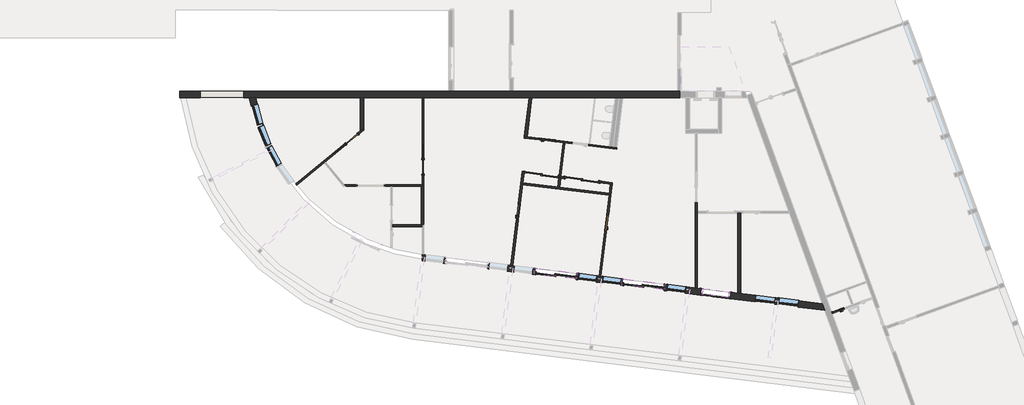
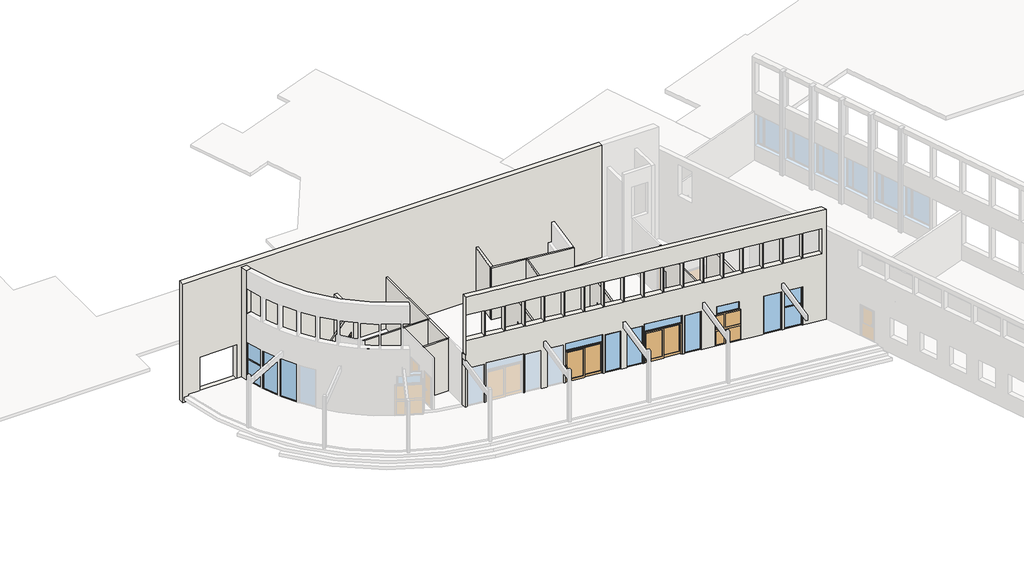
# One storey, part 2 of 13: 19 walls, 11 doors, 11 windows.
"""IFC4 building model written with IfcOpenShell, lengths in millimetres."""

from ifc_helpers import new_model, si_unit, frame, origin, place, context, project, spatial, polyline, circle_curve, outline, extrude, faceted_brep, transform, mapped, element, save
from ifc_brep_helpers import plane_surface, cylinder_surface, advanced_brep
from components import door_adb3bcbd, door_b8f6f8d4, door_7x21_1ed85bad, door_9x21_ce0798c1, door_9x21_316ed650, door_9x21_88a7b2ae, id_16x22m_5dfcd5f5, window_942cbd03, window_3f70d9f7, window_7219a36e, window_894d641d, window_12c30cfa, window_c16d9a60

model = new_model("IFC4")

# Units and contexts
model_context = context("Model", 3, world=origin())
ifc_project = project(units=[si_unit("LENGTHUNIT", "METRE", prefix="MILLI")], contexts=[model_context])

# Site, building, storey
site = spatial("IfcSite", under=ifc_project)
building = spatial("IfcBuilding", under=site)
storey = spatial("IfcBuildingStorey", under=building, Name="1.0 første etg hovedbygg", Elevation=2500.0)

# Doors
placement = place(None, origin())
door_shape = door_adb3bcbd(model_context)
element("IfcDoor", 1, ObjectType="Balkongdor ST : 23x21 ST V1", at=placement, inside=storey, context=model_context, shape_type="MappedRepresentation", body=[
    mapped(door_shape, transform((21189.1514529, -10546.0797473, 2500.0), x_axis=(-0.9925461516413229, 0.12186934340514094, 0.0), y_axis=(-0.12186934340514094, -0.9925461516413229, 0.0), z_axis=(0.0, 0.0, 1.0))),
])
element("IfcDoor", 2, ObjectType="Balkongdor ST : 23x21 ST V1", at=placement, inside=storey, context=model_context, shape_type="MappedRepresentation", body=[
    mapped(door_shape, transform((16464.6317694, -9965.9816725, 2500.0), x_axis=(-0.9925461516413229, 0.12186934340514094, 0.0), y_axis=(-0.12186934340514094, -0.9925461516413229, 0.0), z_axis=(0.0, 0.0, 1.0))),
])
door_2_shape = door_b8f6f8d4(model_context)
element("IfcDoor", 3, ObjectType="skyvedørsgarderobe : 72\" x 84\"", at=placement, inside=storey, context=model_context, shape_type="MappedRepresentation", body=[
    mapped(door_2_shape, transform((15726.1113674, -4493.034989, 2500.0), x_axis=(-0.9925461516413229, 0.12186934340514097, 0.0), y_axis=(-0.12186934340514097, -0.9925461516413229, 0.0), z_axis=(0.0, 0.0, 1.0))),
])
element("IfcDoor", 4, ObjectType="skyvedørsgarderobe : 72\" x 84\"", at=placement, inside=storey, context=model_context, shape_type="MappedRepresentation", body=[
    mapped(door_2_shape, transform((17878.7580912, -5013.2542674, 2500.0), x_axis=(0.9925461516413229, -0.12186934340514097, 0.0), y_axis=(0.12186934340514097, 0.9925461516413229, 0.0), z_axis=(0.0, 0.0, 1.0))),
])
door_7x21_shape = door_7x21_1ed85bad(model_context)
element("IfcDoor", 5, ObjectType="Innerdør Slett (Diplomat) : 7x21", at=placement, inside=storey, context=model_context, shape_type="MappedRepresentation", body=[
    mapped(door_7x21_shape, transform((31645.4917854, -11957.9047958, 2500.0), x_axis=(0.9396926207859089, 0.34202014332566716, 0.0), y_axis=(-0.34202014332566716, 0.9396926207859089, 0.0), z_axis=(0.0, 0.0, 1.0))),
])
door_9x21_shape = door_9x21_ce0798c1(model_context)
element("IfcDoor", 6, ObjectType="Innerdør Slett (Diplomat) : 9x21", at=placement, inside=storey, context=model_context, shape_type="MappedRepresentation", body=[
    mapped(door_9x21_shape, transform((14463.7927551, -6568.286022, 2500.0), x_axis=(-0.12186934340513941, -0.9925461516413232, 0.0), y_axis=(0.9925461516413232, -0.12186934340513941, 0.0), z_axis=(0.0, 0.0, 1.0))),
])
door_9x21_2_shape = door_9x21_316ed650(model_context)
element("IfcDoor", 7, ObjectType="Innerdør Slett (Diplomat) : 9x21", at=placement, inside=storey, context=model_context, shape_type="MappedRepresentation", body=[
    mapped(door_9x21_2_shape, transform((16094.4220812, -2751.9429377, 2500.0), x_axis=(-0.9925461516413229, 0.1218693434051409, 0.0), y_axis=(-0.1218693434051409, -0.9925461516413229, 0.0), z_axis=(0.0, 0.0, 1.0))),
])
element("IfcDoor", 8, ObjectType="Innerdør Slett (Diplomat) : 9x21", at=placement, inside=storey, context=model_context, shape_type="MappedRepresentation", body=[
    mapped(door_9x21_2_shape, transform((19225.5768995, -7173.1097938, 2500.0), x_axis=(-0.12186934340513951, -0.9925461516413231, 0.0), y_axis=(0.9925461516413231, -0.12186934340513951, 0.0), z_axis=(0.0, 0.0, 1.0))),
])
door_9x21_3_shape = door_9x21_88a7b2ae(model_context)
element("IfcDoor", 9, ObjectType="Innerdor Skyvedor Glatt : 9x21", at=placement, inside=storey, context=model_context, shape_type="MappedRepresentation", body=[
    mapped(door_9x21_3_shape, transform((5499.1047617, -2691.4244287, 2500.0), x_axis=(0.77574393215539, 0.6310478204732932, 0.0), y_axis=(-0.6310478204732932, 0.77574393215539, 0.0), z_axis=(0.0, 0.0, 1.0))),
])
element("IfcDoor", 10, ObjectType="Innerdor Skyvedor Glatt : 9x21", at=placement, inside=storey, context=model_context, shape_type="MappedRepresentation", body=[
    mapped(door_9x21_3_shape, transform((9333.9847548, -4197.7698419, 2500.0), x_axis=(0.0, -1.0, 0.0), y_axis=(1.0, 0.0, 0.0), z_axis=(0.0, 0.0, 1.0))),
])
id_16x22m_shape = id_16x22m_5dfcd5f5(model_context)
element("IfcDoor", 11, ObjectType="Y-dør tofløya med glas : ID 16x22M", at=placement, inside=storey, context=model_context, shape_type="MappedRepresentation", body=[
    mapped(id_16x22m_shape, transform((24397.060615, -10939.9614652, 2500.0), x_axis=(-0.9925461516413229, 0.12186934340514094, 0.0), y_axis=(-0.12186934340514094, -0.9925461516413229, 0.0), z_axis=(0.0, 0.0, 1.0))),
])

# Walls
element("IfcWall", 12, ObjectType="Yttervegg Tre 198+48 Isolert Stående kledning 2", at=placement, inside=storey, context=model_context, shape_type="Brep", body=[
    faceted_brep([(331.2226777, -480.0, 9960.0), (410.461041, -855.1499797, 9960.0), (410.461041, -855.1499797, 8720.0), (401.9582895, -814.8941375, 8720.0), (401.9582895, -814.8941375, 7010.0), (410.461041, -855.1499797, 7010.0), (410.461041, -855.1499797, 5100.0), (402.1505635, -815.8044485, 5100.0), (402.1505635, -815.8044485, 2500.0), (331.2226777, -480.0, 2500.0), (-20.367027, -480.0, 2500.0), (74.446719, -928.8908326, 2500.0), (74.446719, -928.8908326, 9960.0), (-20.367027, -480.0, 9960.0), (399.2774413, -805.51238, 2500.0), (68.4117649, -897.8764671, 2500.0), (76.9182834, -928.3484294, 2500.0), (76.9182834, -928.3484294, 5100.0), (76.9742172, -928.3361543, 7010.0), (76.9742172, -928.3361543, 8720.0), (68.4117649, -897.8764671, 5100.0), (399.2774413, -805.51238, 5100.0), (399.028633, -804.3951185, 8720.0), (399.028633, -804.3951185, 7010.0), (68.1528569, -896.7230188, 8720.0), (68.1528569, -896.7230188, 7010.0)], [[[0, 1, 2, 3, 4, 5, 6, 7, 8, 9]], [[10, 11, 12, 13]], [[11, 10, 9, 8, 14, 15, 16]], [[1, 0, 13, 12]], [[0, 9, 10, 13]], [[1, 12, 11, 16, 17, 6, 5, 18, 19, 2]], [[20, 17, 16, 15]], [[7, 21, 14, 8]], [[20, 21, 7, 6, 17]], [[21, 20, 15, 14]], [[22, 23, 4, 3]], [[24, 22, 3, 2, 19]], [[24, 25, 23, 22]], [[23, 25, 18, 5, 4]], [[25, 24, 19, 18]]]),
])
element("IfcWall", 13, ObjectType="Yttervegg Tre 198+48 Isolert Stående kledning 2", at=placement, inside=storey, context=model_context, shape_type="Brep", body=[
    faceted_brep([(9354.9462819, -8919.7303718, 9960.0), (30838.2598309, -11557.5495926, 9960.0), (30838.2598309, -11557.5495926, 2500.0), (29582.239769, -11403.3297208, 2500.0), (29582.239769, -11403.3297208, 5100.0), (28480.5135407, -11268.0547496, 5100.0), (28480.5135407, -11268.0547496, 2500.0), (28331.631618, -11249.7743481, 2500.0), (28331.631618, -11249.7743481, 5100.0), (27229.9053896, -11114.499377, 5100.0), (27229.9053896, -11114.499377, 2500.0), (26442.9088069, -11017.8683471, 2500.0), (26292.9088069, -10999.450663, 2500.0), (25914.7817387, -10953.0224969, 2500.0), (25914.7817387, -10953.0224969, 4600.0), (25815.5271236, -10940.8355626, 4600.0), (25815.5271236, -10940.8355626, 5170.0), (24416.0370497, -10768.9997884, 5170.0), (24416.0370497, -10768.9997884, 4600.0), (24316.7824346, -10756.8128541, 4600.0), (24316.7824346, -10756.8128541, 2500.0), (24092.9088069, -10729.324629, 2500.0), (23992.9088069, -10717.0461729, 2500.0), (23497.9318595, -10656.2706458, 2500.0), (23497.9318595, -10656.2706458, 5100.0), (22495.4602463, -10533.1826089, 5100.0), (22495.4602463, -10533.1826089, 2500.0), (22356.5037851, -10516.1209008, 2500.0), (22356.5037851, -10516.1209008, 5170.0), (20063.7221748, -10234.6027176, 5170.0), (20063.7221748, -10234.6027176, 2500.0), (20024.0203287, -10229.7279438, 2500.0), (20024.0203287, -10229.7279438, 5100.0), (19021.5487156, -10106.639907, 5100.0), (19021.5487156, -10106.639907, 2500.0), (18917.3313697, -10093.8436259, 2500.0), (18818.0767545, -10081.6566916, 2500.0), (18713.8594086, -10068.8604105, 2500.0), (18713.8594086, -10068.8604105, 5100.0), (17711.3877954, -9945.7723737, 5100.0), (17711.3877954, -9945.7723737, 2500.0), (17631.9841016, -9936.022826, 2500.0), (17632.0094172, -9936.0259344, 5170.0), (15339.2278069, -9654.5077511, 5170.0), (15339.2024913, -9654.5046428, 2500.0), (15259.7987974, -9644.7550951, 2500.0), (15259.7987974, -9644.7550951, 5100.0), (14257.3271843, -9521.6670582, 5100.0), (14257.3271843, -9521.6670582, 2500.0), (14153.1098384, -9508.8707772, 2500.0), (14053.8552232, -9496.6838428, 2500.0), (13909.9360312, -9479.012788, 2500.0), (13909.9360312, -9479.012788, 5100.0), (12907.4644181, -9355.9247512, 5100.0), (12907.4644181, -9355.9247512, 2500.0), (12847.911649, -9348.6125906, 2500.0), (12847.911649, -9348.6125906, 4600.0), (12847.469406, -9348.55829, 4600.0), (12847.469406, -9348.55829, 5170.0), (10554.6877957, -9067.0401067, 5170.0), (10554.6877957, -9067.0401067, 4590.0), (10555.1300387, -9067.0944073, 4590.0), (10555.1300387, -9067.0944073, 2500.0), (10475.7263465, -9057.3448599, 2500.0), (10475.7263465, -9057.3448599, 5100.0), (9473.2547334, -8934.256823, 5100.0), (9473.2547334, -8934.256823, 2500.0), (9383.9847548, -8923.2958479, 2500.0), (9339.2610063, -8917.8044621, 2500.0), (9283.9847548, -8911.0173918, 2500.0), (9283.9847548, -8911.0173918, 6020.0), (9339.2610063, -8917.8044621, 6020.0), (9354.9462819, -8919.7303718, 6020.0), (10485.6519207, -9058.5635671, 7010.0), (10485.6519207, -9058.5635671, 8720.0), (9383.9256924, -8923.2885959, 8720.0), (9383.9256924, -8923.2885959, 7010.0), (11676.7073027, -9204.8067792, 7010.0), (11676.7073027, -9204.8067792, 8720.0), (10574.9810744, -9069.531808, 8720.0), (10574.9810744, -9069.531808, 7010.0), (12867.7626846, -9351.0499913, 7010.0), (12867.7626846, -9351.0499913, 8720.0), (11766.0364563, -9215.7750201, 8720.0), (11766.0364563, -9215.7750201, 7010.0), (14058.817954, -9497.2931896, 7010.0), (14058.817954, -9497.2931896, 8720.0), (12957.0917256, -9362.0182184, 8720.0), (12957.0917256, -9362.0182184, 7010.0), (15249.8734486, -9643.5364155, 7010.0), (15249.8734486, -9643.5364155, 8720.0), (14148.1472203, -9508.2614443, 8720.0), (14148.1472203, -9508.2614443, 7010.0), (16440.9288306, -9789.7796276, 7010.0), (16440.9288306, -9789.7796276, 8720.0), (15339.2026022, -9654.5046564, 8720.0), (15339.2026022, -9654.5046564, 7010.0), (17631.9842125, -9936.0228396, 7010.0), (17631.9842125, -9936.0228396, 8720.0), (16530.2579842, -9800.7478685, 8720.0), (16530.2579842, -9800.7478685, 7010.0), (18823.0394852, -10082.2660383, 7010.0), (18823.0394852, -10082.2660383, 8720.0), (17721.3132569, -9946.9910671, 8720.0), (17721.3132569, -9946.9910671, 7010.0), (20014.0949765, -10228.5092638, 7010.0), (20014.0949765, -10228.5092638, 8720.0), (18912.3687481, -10093.2342926, 8720.0), (18912.3687481, -10093.2342926, 7010.0), (21205.1503584, -10374.7524759, 7010.0), (21205.1503584, -10374.7524759, 8720.0), (20103.4241301, -10239.4775047, 8720.0), (20103.4241301, -10239.4775047, 7010.0), (22396.2057404, -10520.995688, 7010.0), (22396.2057404, -10520.995688, 8720.0), (21294.4795121, -10385.7207168, 8720.0), (21294.4795121, -10385.7207168, 7010.0), (23587.2611224, -10667.2389001, 7010.0), (23587.2611224, -10667.2389001, 8720.0), (22485.534894, -10531.9639289, 8720.0), (22485.534894, -10531.9639289, 7010.0), (24778.3165043, -10813.4821122, 7010.0), (24778.3165043, -10813.4821122, 8720.0), (23676.590276, -10678.207141, 8720.0), (23676.590276, -10678.207141, 7010.0), (25969.3718863, -10959.7253242, 7010.0), (25969.3718863, -10959.7253242, 8720.0), (24867.645658, -10824.4503531, 8720.0), (24867.645658, -10824.4503531, 7010.0), (27160.4272683, -11105.9685363, 7010.0), (27160.4272683, -11105.9685363, 8720.0), (26058.70104, -10970.6935652, 8720.0), (26058.70104, -10970.6935652, 7010.0), (28351.4826502, -11252.2117484, 7010.0), (28351.4826502, -11252.2117484, 8720.0), (27249.7564219, -11116.9367772, 8720.0), (27249.7564219, -11116.9367772, 7010.0), (29542.5380322, -11398.4549605, 7010.0), (29542.5380322, -11398.4549605, 8720.0), (28440.8118039, -11263.1799893, 8720.0), (28440.8118039, -11263.1799893, 7010.0), (30733.5934142, -11544.6981726, 7010.0), (30733.5934142, -11544.6981726, 8720.0), (29631.8671859, -11409.4232014, 8720.0), (29631.8671859, -11409.4232014, 7010.0), (30970.307045, -11920.3463318, 9960.0), (9313.0232277, -9261.1662479, 9960.0), (9313.0232277, -9261.1662479, 6020.0), (9283.9847548, -9257.6007718, 6020.0), (9283.9847548, -9257.6007718, 2500.0), (9431.3316792, -9275.6926992, 2500.0), (9431.3316792, -9275.6926992, 5100.0), (10433.8032924, -9398.780736, 5100.0), (10433.8032924, -9398.780736, 2500.0), (10513.2069845, -9408.5302835, 2500.0), (10513.2069845, -9408.5302835, 4590.0), (10512.7647416, -9408.4759829, 4590.0), (10512.7647416, -9408.4759829, 5170.0), (12805.5463519, -9689.9941662, 5170.0), (12805.5463519, -9689.9941662, 4600.0), (12805.9885948, -9690.0484668, 4600.0), (12805.9885948, -9690.0484668, 2500.0), (12865.5413639, -9697.3606274, 2500.0), (12865.5413639, -9697.3606274, 5100.0), (13868.0129771, -9820.4486642, 5100.0), (13868.0129771, -9820.4486642, 2500.0), (14215.4041302, -9863.1029344, 2500.0), (14215.4041302, -9863.1029344, 5100.0), (15217.8757433, -9986.1909712, 5100.0), (15217.8757433, -9986.1909712, 2500.0), (15297.2794372, -9995.9405189, 2500.0), (15297.3047528, -9995.9436273, 5170.0), (17590.0863631, -10277.4618106, 5170.0), (17590.0610474, -10277.4587022, 2500.0), (17669.4647413, -10287.2082499, 2500.0), (17669.4647413, -10287.2082499, 5100.0), (18671.9363544, -10410.2962867, 5100.0), (18671.9363544, -10410.2962867, 2500.0), (18979.6256614, -10448.0757832, 2500.0), (18979.6256614, -10448.0757832, 5100.0), (19982.0972746, -10571.16382, 5100.0), (19982.0972746, -10571.16382, 2500.0), (20021.7991207, -10576.0385937, 2500.0), (20021.7991207, -10576.0385937, 5170.0), (22314.580731, -10857.556777, 5170.0), (22314.580731, -10857.556777, 2500.0), (22453.5371922, -10874.6184851, 2500.0), (22453.5371922, -10874.6184851, 5100.0), (23456.0088053, -10997.7065219, 5100.0), (23456.0088053, -10997.7065219, 2500.0), (24274.8593805, -11098.2487302, 2500.0), (24274.8593805, -11098.2487302, 4600.0), (24374.1139956, -11110.4356646, 4600.0), (24374.1139956, -11110.4356646, 5170.0), (25773.6040694, -11282.2714388, 5170.0), (25773.6040694, -11282.2714388, 4600.0), (25872.8586846, -11294.4583731, 4600.0), (25872.8586846, -11294.4583731, 2500.0), (27187.9823355, -11455.9352531, 2500.0), (27187.9823355, -11455.9352531, 5100.0), (28289.7085638, -11591.2102243, 5100.0), (28289.7085638, -11591.2102243, 2500.0), (28438.5904866, -11609.4906258, 2500.0), (28438.5904866, -11609.4906258, 5100.0), (29540.3167149, -11744.765597, 5100.0), (29540.3167149, -11744.765597, 2500.0), (30970.307045, -11920.3463318, 2500.0), (10443.7288666, -9399.9994433, 7010.0), (9342.0026383, -9264.7244721, 7010.0), (9342.0026383, -9264.7244721, 8720.0), (10443.7288666, -9399.9994433, 8720.0), (11634.7842485, -9546.2426554, 7010.0), (10533.0580202, -9410.9676842, 7010.0), (10533.0580202, -9410.9676842, 8720.0), (11634.7842485, -9546.2426554, 8720.0), (12825.8396305, -9692.4858675, 7010.0), (11724.1134022, -9557.2108963, 7010.0), (11724.1134022, -9557.2108963, 8720.0), (12825.8396305, -9692.4858675, 8720.0), (14016.8948998, -9838.7290657, 7010.0), (12915.1686715, -9703.4540945, 7010.0), (12915.1686715, -9703.4540945, 8720.0), (14016.8948998, -9838.7290657, 8720.0), (15207.9503945, -9984.9722916, 7010.0), (14106.2241661, -9849.6973205, 7010.0), (14106.2241661, -9849.6973205, 8720.0), (15207.9503945, -9984.9722916, 8720.0), (16399.0057764, -10131.2155037, 7010.0), (15297.2795481, -9995.9405325, 7010.0), (15297.2795481, -9995.9405325, 8720.0), (16399.0057764, -10131.2155037, 8720.0), (17590.0611584, -10277.4587158, 7010.0), (16488.3349301, -10142.1837446, 7010.0), (16488.3349301, -10142.1837446, 8720.0), (17590.0611584, -10277.4587158, 8720.0), (18781.1164311, -10423.7019145, 7010.0), (17679.3902028, -10288.4269433, 7010.0), (17679.3902028, -10288.4269433, 8720.0), (18781.1164311, -10423.7019145, 8720.0), (19972.1719223, -10569.94514, 7010.0), (18870.445694, -10434.6701688, 7010.0), (18870.445694, -10434.6701688, 8720.0), (19972.1719223, -10569.94514, 8720.0), (21163.2273043, -10716.1883521, 7010.0), (20061.501076, -10580.9133809, 7010.0), (20061.501076, -10580.9133809, 8720.0), (21163.2273043, -10716.1883521, 8720.0), (22354.2826863, -10862.4315642, 7010.0), (21252.5564579, -10727.156593, 7010.0), (21252.5564579, -10727.156593, 8720.0), (22354.2826863, -10862.4315642, 8720.0), (23545.3380682, -11008.6747762, 7010.0), (22443.6118399, -10873.3998051, 7010.0), (22443.6118399, -10873.3998051, 8720.0), (23545.3380682, -11008.6747762, 8720.0), (24736.3934502, -11154.9179883, 7010.0), (23634.6672219, -11019.6430171, 7010.0), (23634.6672219, -11019.6430171, 8720.0), (24736.3934502, -11154.9179883, 8720.0), (25927.4488322, -11301.1612004, 7010.0), (24825.7226039, -11165.8862292, 7010.0), (24825.7226039, -11165.8862292, 8720.0), (25927.4488322, -11301.1612004, 8720.0), (27118.5042141, -11447.4044125, 7010.0), (26016.7779858, -11312.1294413, 7010.0), (26016.7779858, -11312.1294413, 8720.0), (27118.5042141, -11447.4044125, 8720.0), (28309.5595961, -11593.6476246, 7010.0), (27207.8333678, -11458.3726534, 7010.0), (27207.8333678, -11458.3726534, 8720.0), (28309.5595961, -11593.6476246, 8720.0), (29500.6149781, -11739.8908367, 7010.0), (28398.8887498, -11604.6158655, 7010.0), (28398.8887498, -11604.6158655, 8720.0), (29500.6149781, -11739.8908367, 8720.0), (30691.6703601, -11886.1340488, 7010.0), (29589.9441317, -11750.8590776, 7010.0), (29589.9441317, -11750.8590776, 8720.0), (30691.6703601, -11886.1340488, 8720.0)], [[[0, 1, 2, 3, 4, 5, 6, 7, 8, 9, 10, 11, 12, 13, 14, 15, 16, 17, 18, 19, 20, 21, 22, 23, 24, 25, 26, 27, 28, 29, 30, 31, 32, 33, 34, 35, 36, 37, 38, 39, 40, 41, 42, 43, 44, 45, 46, 47, 48, 49, 50, 51, 52, 53, 54, 55, 56, 57, 58, 59, 60, 61, 62, 63, 64, 65, 66, 67, 68, 69, 70, 71, 72], [73, 74, 75, 76], [77, 78, 79, 80], [81, 82, 83, 84], [85, 86, 87, 88], [89, 90, 91, 92], [93, 94, 95, 96], [97, 98, 99, 100], [101, 102, 103, 104], [105, 106, 107, 108], [109, 110, 111, 112], [113, 114, 115, 116], [117, 118, 119, 120], [121, 122, 123, 124], [125, 126, 127, 128], [129, 130, 131, 132], [133, 134, 135, 136], [137, 138, 139, 140], [141, 142, 143, 144]], [[145, 146, 147, 148, 149, 150, 151, 152, 153, 154, 155, 156, 157, 158, 159, 160, 161, 162, 163, 164, 165, 166, 167, 168, 169, 170, 171, 172, 173, 174, 175, 176, 177, 178, 179, 180, 181, 182, 183, 184, 185, 186, 187, 188, 189, 190, 191, 192, 193, 194, 195, 196, 197, 198, 199, 200, 201, 202, 203, 204, 205, 206], [207, 208, 209, 210], [211, 212, 213, 214], [215, 216, 217, 218], [219, 220, 221, 222], [223, 224, 225, 226], [227, 228, 229, 230], [231, 232, 233, 234], [235, 236, 237, 238], [239, 240, 241, 242], [243, 244, 245, 246], [247, 248, 249, 250], [251, 252, 253, 254], [255, 256, 257, 258], [259, 260, 261, 262], [263, 264, 265, 266], [267, 268, 269, 270], [271, 272, 273, 274], [275, 276, 277, 278]], [[2, 206, 205, 3]], [[149, 69, 68, 67, 66, 150]], [[153, 63, 62, 154]], [[165, 51, 50, 49, 48, 166]], [[54, 162, 161, 55]], [[169, 45, 44, 170]], [[189, 23, 22, 21, 20, 190]], [[26, 186, 185, 27]], [[201, 7, 6, 202]], [[10, 198, 197, 13, 12, 11]], [[30, 182, 181, 31]], [[34, 178, 177, 37, 36, 35]], [[40, 174, 173, 41]], [[1, 0, 146, 145]], [[2, 1, 145, 206]], [[147, 72, 71, 70, 148]], [[146, 0, 72, 147]], [[70, 69, 149, 148]], [[152, 64, 63, 153]], [[64, 152, 151, 65]], [[65, 151, 150, 66]], [[164, 52, 51, 165]], [[52, 164, 163, 53]], [[53, 163, 162, 54]], [[168, 46, 45, 169]], [[46, 168, 167, 47]], [[47, 167, 166, 48]], [[188, 24, 23, 189]], [[24, 188, 187, 25]], [[25, 187, 186, 26]], [[200, 8, 7, 201]], [[8, 200, 199, 9]], [[9, 199, 198, 10]], [[204, 4, 3, 205]], [[4, 204, 203, 5]], [[5, 203, 202, 6]], [[182, 30, 29, 183]], [[27, 185, 184, 28]], [[180, 32, 31, 181]], [[32, 180, 179, 33]], [[33, 179, 178, 34]], [[28, 184, 183, 29]], [[19, 191, 190, 20]], [[191, 19, 18, 192]], [[14, 196, 195, 15]], [[196, 14, 13, 197]], [[194, 16, 15, 195]], [[16, 194, 193, 17]], [[17, 193, 192, 18]], [[176, 38, 37, 177]], [[38, 176, 175, 39]], [[39, 175, 174, 40]], [[154, 62, 61, 155]], [[56, 160, 159, 57]], [[160, 56, 55, 161]], [[170, 44, 43, 171]], [[41, 173, 172, 42]], [[158, 58, 57, 159]], [[58, 158, 157, 59]], [[59, 157, 156, 60]], [[60, 156, 155, 61]], [[42, 172, 171, 43]], [[74, 73, 207, 210]], [[75, 74, 210, 209]], [[76, 75, 209, 208]], [[73, 76, 208, 207]], [[78, 77, 211, 214]], [[79, 78, 214, 213]], [[80, 79, 213, 212]], [[77, 80, 212, 211]], [[82, 81, 215, 218]], [[83, 82, 218, 217]], [[84, 83, 217, 216]], [[81, 84, 216, 215]], [[86, 85, 219, 222]], [[87, 86, 222, 221]], [[88, 87, 221, 220]], [[85, 88, 220, 219]], [[90, 89, 223, 226]], [[91, 90, 226, 225]], [[92, 91, 225, 224]], [[89, 92, 224, 223]], [[94, 93, 227, 230]], [[95, 94, 230, 229]], [[96, 95, 229, 228]], [[93, 96, 228, 227]], [[98, 97, 231, 234]], [[99, 98, 234, 233]], [[100, 99, 233, 232]], [[97, 100, 232, 231]], [[102, 101, 235, 238]], [[103, 102, 238, 237]], [[104, 103, 237, 236]], [[101, 104, 236, 235]], [[106, 105, 239, 242]], [[107, 106, 242, 241]], [[108, 107, 241, 240]], [[105, 108, 240, 239]], [[110, 109, 243, 246]], [[111, 110, 246, 245]], [[112, 111, 245, 244]], [[109, 112, 244, 243]], [[114, 113, 247, 250]], [[115, 114, 250, 249]], [[116, 115, 249, 248]], [[113, 116, 248, 247]], [[118, 117, 251, 254]], [[119, 118, 254, 253]], [[120, 119, 253, 252]], [[117, 120, 252, 251]], [[122, 121, 255, 258]], [[123, 122, 258, 257]], [[124, 123, 257, 256]], [[121, 124, 256, 255]], [[126, 125, 259, 262]], [[127, 126, 262, 261]], [[128, 127, 261, 260]], [[125, 128, 260, 259]], [[130, 129, 263, 266]], [[131, 130, 266, 265]], [[132, 131, 265, 264]], [[129, 132, 264, 263]], [[134, 133, 267, 270]], [[135, 134, 270, 269]], [[136, 135, 269, 268]], [[133, 136, 268, 267]], [[138, 137, 271, 274]], [[139, 138, 274, 273]], [[140, 139, 273, 272]], [[137, 140, 272, 271]], [[142, 141, 275, 278]], [[143, 142, 278, 277]], [[144, 143, 277, 276]], [[141, 144, 276, 275]]]),
])
element("IfcWall", 14, ObjectType="Yttervegg Mur 350 isoblokk pusset seksjonsskille", at=placement, inside=storey, context=model_context, shape_type="SweptSolid", body=[
    extrude(outline(polyline([(2050.0, -3781.6867283), (2050.0, 23151.9162483), (10110.0, 23151.9162483), (10110.0, -3781.6867283), (2050.0, -3781.6867283)]), holes=[polyline([(4770.0, -2666.9484368), (4770.0, -326.9484368), (2471.3707864, -326.9484368), (2471.3707864, -2666.9484368), (4770.0, -2666.9484368)])]), frame((0.0, -480.0, 0.0), z_axis=(0.0, 1.0, 0.0), x_axis=(0.0, 0.0, 1.0)), (0.0, 0.0, 1.0), 370.0),
])
element("IfcWall", 15, ObjectType="Generic - 100mm - Filled", at=placement, inside=storey, context=model_context, shape_type="Brep", body=[
    faceted_brep([(9233.9847548, -5247.7698419, 6020.0), (7683.9847548, -5247.7698419, 6020.0), (7583.9847548, -5247.7698419, 6020.0), (5168.0370112, -5247.7698419, 6020.0), (5168.0370112, -5247.7698419, 2500.0), (5803.9847548, -5247.7698419, 2500.0), (5803.9847548, -5247.7698419, 4620.0), (7213.9847548, -5247.7698419, 4620.0), (7213.9847548, -5247.7698419, 2500.0), (7583.9847548, -5247.7698419, 2500.0), (7683.9847548, -5247.7698419, 2500.0), (9233.9847548, -5247.7698419, 2500.0), (9283.9847548, -5147.7698419, 6020.0), (9283.9847548, -5147.7698419, 2500.0), (7213.9847548, -5147.7698419, 2500.0), (7213.9847548, -5147.7698419, 4620.0), (5803.9847548, -5147.7698419, 4620.0), (5803.9847548, -5147.7698419, 2500.0), (5086.6895724, -5147.7698419, 2500.0), (5086.6895724, -5147.7698419, 6020.0), (9283.9847548, -5197.7698419, 2500.0), (9233.9847548, -5197.7698419, 2500.0), (9233.9847548, -5197.7698419, 6020.0), (9283.9847548, -5197.7698419, 6020.0)], [[[0, 1, 2, 3, 4, 5, 6, 7, 8, 9, 10, 11]], [[12, 13, 14, 15, 16, 17, 18, 19]], [[4, 18, 17, 5]], [[13, 20, 21, 11, 10, 9, 8, 14]], [[3, 2, 1, 0, 22, 23, 12, 19]], [[4, 3, 19, 18]], [[0, 11, 21, 22]], [[21, 20, 23, 22]], [[13, 12, 23, 20]], [[16, 6, 5, 17]], [[6, 16, 15, 7]], [[7, 15, 14, 8]]]),
])
element("IfcWall", 16, ObjectType="Generic - 100mm - Filled", at=placement, inside=storey, context=model_context, shape_type="AdvancedBrep", body=[
    advanced_brep(
    [(6139.2610063, -2235.127978, 6020.0), (4080.0159996, -3910.2710496, 6020.0), (4002.4416064, -3973.3758317, 6020.0), (2527.5755314, -5173.1416095, 6020.0), (2527.5755314, -5173.1416095, 2500.0), (4002.4416064, -3973.3758317, 2500.0), (4080.0159996, -3910.2710496, 2500.0), (5222.6868117, -2980.7376101, 2500.0), (5222.6868117, -2980.7376101, 4630.0), (5879.7419222, -2446.2401061, 4630.0), (5879.7419222, -2446.2401061, 2500.0), (6139.2610063, -2235.127978, 2500.0), (2464.4707493, -5095.5672162, 6020.0), (5939.2610063, -2268.9143384, 6020.0), (6139.2610063, -2106.2194608, 6020.0), (6139.2610063, -2106.2194608, 2500.0), (5939.2610063, -2268.9143384, 2500.0), (5816.6371402, -2368.6657129, 2500.0), (5816.6371402, -2368.6657129, 4630.0), (5159.5820296, -2903.1632168, 4630.0), (5159.5820296, -2903.1632168, 2500.0), (2464.4707493, -5095.5672162, 2500.0), (5175.3582251, -2922.5568151, 2500.0), (4513.648651, -3460.840606, 2500.0), (4545.201042, -3499.6278026, 2500.0), (5206.9106162, -2961.3440117, 2500.0), (4545.201042, -3499.6278026, 4630.0), (4513.648651, -3460.840606, 4630.0), (5175.3582251, -2922.5568151, 4630.0), (5206.9106162, -2961.3440117, 4630.0)],
    [
        (0, 1),
        (1, 2),
        (2, 3),
        (3, 4),
        (4, 5),
        (5, 6),
        (6, 7),
        (7, 8),
        (8, 9),
        (9, 10),
        (10, 11),
        (11, 0),
        (12, 13),
        (13, 14),
        (14, 15),
        (15, 16),
        (16, 17),
        (17, 18),
        (18, 19),
        (19, 20),
        (20, 21),
        (21, 12),
        (4, 21, circle_curve(frame((10614.7230159, 1470.0, 2500.0), z_axis=(0.0, 0.0, -1.0), x_axis=(1.0, 0.0, 0.0)), 10465.8150605)),
        (20, 22),
        (22, 23),
        (23, 24),
        (24, 25),
        (25, 7),
        (15, 11),
        (10, 17),
        (0, 14),
        (12, 3, circle_curve(frame((10614.7230159, 1470.0, 6020.0), z_axis=(0.0, 0.0, 1.0), x_axis=(1.0, 0.0, 0.0)), 10465.8150605)),
        (26, 27),
        (27, 28),
        (28, 19),
        (18, 9),
        (8, 29),
        (29, 26),
        (29, 25),
        (24, 26),
        (28, 22),
        (27, 23),
    ],
    [
        plane_surface(frame((2527.4828787, -5173.21698, 2500.0), z_axis=(0.6310478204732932, -0.77574393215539, 0.0), x_axis=(0.77574393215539, 0.6310478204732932, 0.0))),
        plane_surface(frame((2464.3780967, -5095.6425868, 2500.0), z_axis=(-0.6310478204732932, 0.77574393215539, 0.0), x_axis=(-0.77574393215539, -0.6310478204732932, 0.0))),
        plane_surface(frame((2394.0549224, -5281.7572051, 2500.0), z_axis=(0.0, 0.0, -1.0), x_axis=(-0.6310478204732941, 0.7757439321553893, 0.0))),
        plane_surface(frame((6070.8133973, -2290.8083548, 6020.0), z_axis=(0.0, 0.0, 1.0), x_axis=(-0.6310478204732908, 0.775743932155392, 0.0))),
        cylinder_surface(frame((10614.7230159, 1470.0, 2500.0), z_axis=(0.0, 0.0, -1.0), x_axis=(1.0, 0.0, 0.0)), 10465.8150605),
        plane_surface(frame((6139.2610063, -2268.9143384, 2500.0), z_axis=(1.0, 0.0, 0.0), x_axis=(0.0, 1.0, 0.0))),
        plane_surface(frame((5206.9106162, -2961.3440117, 4630.0), z_axis=(0.0, 0.0, -1.0), x_axis=(0.77574393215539, 0.6310478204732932, 0.0))),
        plane_surface(frame((4545.201042, -3499.6278026, 4630.0), z_axis=(-0.6310478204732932, 0.77574393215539, 0.0), x_axis=(0.0, 0.0, -1.0))),
        plane_surface(frame((5206.9106162, -2961.3440117, 4630.0), z_axis=(0.77574393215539, 0.6310478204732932, 0.0), x_axis=(0.0, 0.0, -1.0))),
        plane_surface(frame((5879.7419222, -2446.2401061, 4630.0), z_axis=(-0.77574393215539, -0.6310478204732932, 0.0), x_axis=(0.0, 0.0, -1.0))),
        plane_surface(frame((5159.5820296, -2903.1632168, 4630.0), z_axis=(0.77574393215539, 0.6310478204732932, 0.0), x_axis=(0.0, 0.0, -1.0))),
        plane_surface(frame((5175.3582251, -2922.5568151, 4630.0), z_axis=(0.6310478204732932, -0.77574393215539, 0.0), x_axis=(0.0, 0.0, -1.0))),
        plane_surface(frame((4513.648651, -3460.840606, 4630.0), z_axis=(0.77574393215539, 0.6310478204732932, 0.0), x_axis=(0.0, 0.0, -1.0))),
    ],
    [
        (0, [[1, 2, 3, 4, 5, 6, 7, 8, 9, 10, 11, 12]]),
        (1, [[13, 14, 15, 16, 17, 18, 19, 20, 21, 22]]),
        (2, [[23, -21, 24, 25, 26, 27, 28, -7, -6, -5]]),
        (2, [[29, -11, 30, -17, -16]]),
        (3, [[-3, -2, -1, 31, -14, -13, 32]]),
        (4, [[-4, -32, -22, -23]]),
        (5, [[-12, -29, -15, -31]]),
        (6, [[33, 34, 35, -19, 36, -9, 37, 38]]),
        (7, [[-38, 39, -27, 40]]),
        (8, [[-37, -8, -28, -39]]),
        (9, [[-36, -18, -30, -10]]),
        (10, [[-35, 41, -24, -20]]),
        (11, [[-34, 42, -25, -41]]),
        (12, [[-33, -40, -26, -42]]),
    ],
),
])
element("IfcWall", 17, ObjectType="Generic - 100mm - Filled", at=placement, inside=storey, context=model_context, shape_type="Brep", body=[
    faceted_brep([(9283.9847548, -7318.4672025, 2500.0), (9233.9847548, -7318.4672025, 2500.0), (7683.9847548, -7318.4672025, 2500.0), (7683.9847548, -7318.4672025, 6020.0), (9233.9847548, -7318.4672025, 6020.0), (9283.9847548, -7318.4672025, 6020.0), (9283.9847548, -7418.4672025, 2500.0), (9283.9847548, -7418.4672025, 6020.0), (7683.9847548, -7418.4672025, 6020.0), (7683.9847548, -7418.4672025, 2500.0)], [[[0, 1, 2, 3, 4, 5]], [[6, 7, 8, 9]], [[2, 1, 0, 6, 9]], [[5, 4, 3, 8, 7]], [[0, 5, 7, 6]], [[3, 2, 9, 8]]]),
])
element("IfcWall", 18, ObjectType="Generic - 100mm - Filled", at=placement, inside=storey, context=model_context, shape_type="Brep", body=[
    faceted_brep([(9383.9847548, -480.0, 6020.0), (9383.9847548, -5197.7698419, 6020.0), (9383.9847548, -5197.7698419, 2500.0), (9383.9847548, -4647.7698419, 2500.0), (9383.9847548, -4647.7698419, 4630.0), (9383.9847548, -3800.7698419, 4630.0), (9383.9847548, -3800.7698419, 2500.0), (9383.9847548, -480.0, 2500.0), (9283.9847548, -5197.7698419, 6020.0), (9283.9847548, -5147.7698419, 6020.0), (9283.9847548, -480.0, 6020.0), (9283.9847548, -480.0, 2500.0), (9283.9847548, -3800.7698419, 2500.0), (9283.9847548, -3800.7698419, 4630.0), (9283.9847548, -4647.7698419, 4630.0), (9283.9847548, -4647.7698419, 2500.0), (9283.9847548, -5147.7698419, 2500.0), (9283.9847548, -5197.7698419, 2500.0), (9358.9847548, -3800.7698419, 2500.0), (9358.9847548, -2947.7698419, 2500.0), (9308.9847548, -2947.7698419, 2500.0), (9308.9847548, -3800.7698419, 2500.0), (9308.9847548, -2947.7698419, 4630.0), (9358.9847548, -2947.7698419, 4630.0), (9358.9847548, -3800.7698419, 4630.0), (9308.9847548, -3800.7698419, 4630.0)], [[[0, 1, 2, 3, 4, 5, 6, 7]], [[8, 9, 10, 11, 12, 13, 14, 15, 16, 17]], [[11, 7, 6, 18, 19, 20, 21, 12]], [[2, 17, 16, 15, 3]], [[1, 0, 10, 9, 8]], [[2, 1, 8, 17]], [[0, 7, 11, 10]], [[22, 23, 24, 5, 4, 14, 13, 25]], [[22, 25, 21, 20]], [[25, 13, 12, 21]], [[14, 4, 3, 15]], [[5, 24, 18, 6]], [[24, 23, 19, 18]], [[23, 22, 20, 19]]]),
])
element("IfcWall", 19, ObjectType="Generic - 100mm - Filled", at=placement, inside=storey, context=model_context, shape_type="Brep", body=[
    faceted_brep([(14562.3652731, -6175.7527395, 4615.0), (14562.3652731, -6175.7527395, 2500.0), (14688.5000435, -5148.4674725, 2500.0), (14700.6869778, -5049.2128574, 2500.0), (14761.6216495, -4552.9397816, 2500.0), (14773.8085839, -4453.6851664, 2500.0), (14773.8085839, -4453.6851664, 6020.0), (14761.6216495, -4552.9397816, 6020.0), (14700.6869778, -5049.2128574, 6020.0), (14688.5000435, -5148.4674725, 6020.0), (14153.1098384, -9508.8707772, 6020.0), (14153.1098384, -9508.8707772, 2500.0), (14451.4641706, -7078.9697375, 2500.0), (14451.4641706, -7078.9697375, 4615.0), (14674.5539687, -4441.4982321, 2500.0), (14463.1106579, -6163.5658052, 2500.0), (14463.1106579, -6163.5658052, 4615.0), (14352.2095554, -7066.7828032, 4615.0), (14352.2095554, -7066.7828032, 2500.0), (14053.8552232, -9496.6838428, 2500.0), (14053.8552232, -9496.6838428, 6020.0), (14674.5539687, -4441.4982321, 6020.0)], [[[0, 1, 2, 3, 4, 5, 6, 7, 8, 9, 10, 11, 12, 13]], [[14, 15, 16, 17, 18, 19, 20, 21]], [[12, 11, 19, 18]], [[5, 4, 3, 2, 1, 15, 14]], [[10, 9, 8, 7, 6, 21, 20]], [[11, 10, 20, 19]], [[6, 5, 14, 21]], [[16, 15, 1, 0]], [[17, 16, 0, 13]], [[18, 17, 13, 12]]]),
])
element("IfcWall", 20, ObjectType="Generic - 100mm - Filled", at=placement, inside=storey, context=model_context, shape_type="Brep", body=[
    faceted_brep([(19525.8431808, -5137.9126303, 6020.0), (19426.5885657, -5125.725696, 6020.0), (16746.7139562, -4796.6784688, 6020.0), (16647.4593411, -4784.4915345, 6020.0), (14761.6216495, -4552.9397816, 6020.0), (14761.6216495, -4552.9397816, 2500.0), (14796.9562925, -4557.2783302, 2500.0), (14796.9562925, -4557.2783302, 4633.6), (16612.1246947, -4780.1529854, 4633.6), (16612.1246947, -4780.1529854, 2500.0), (16647.4593411, -4784.4915345, 2500.0), (16746.7139562, -4796.6784688, 2500.0), (16980.5578295, -4825.3908861, 2500.0), (16980.5578295, -4825.3908861, 4633.6), (18795.7262317, -5048.2655413, 4633.6), (18795.7262317, -5048.2655413, 2500.0), (19426.5885657, -5125.725696, 2500.0), (19525.8431808, -5137.9126303, 2500.0), (14773.8085839, -4453.6851664, 6020.0), (16659.6462754, -4685.2369193, 6020.0), (16758.9008906, -4697.4238536, 6020.0), (19538.0301152, -5038.6580152, 6020.0), (19538.0301152, -5038.6580152, 2500.0), (18807.913166, -4949.0109262, 2500.0), (18807.913166, -4949.0109262, 4633.6), (16992.7447639, -4726.1362709, 4633.6), (16992.7447639, -4726.1362709, 2500.0), (16758.9008906, -4697.4238536, 2500.0), (16659.6462754, -4685.2369193, 2500.0), (16624.311629, -4680.8983702, 2500.0), (16624.311629, -4680.8983702, 4633.6), (14809.1432269, -4458.023715, 4633.6), (14809.1432269, -4458.023715, 2500.0), (14773.8085839, -4453.6851664, 2500.0)], [[[0, 1, 2, 3, 4, 5, 6, 7, 8, 9, 10, 11, 12, 13, 14, 15, 16, 17]], [[18, 19, 20, 21, 22, 23, 24, 25, 26, 27, 28, 29, 30, 31, 32, 33]], [[5, 33, 32, 6]], [[22, 17, 16, 15, 23]], [[9, 29, 28, 27, 26, 12, 11, 10]], [[4, 3, 2, 1, 0, 21, 20, 19, 18]], [[5, 4, 18, 33]], [[0, 17, 22, 21]], [[8, 30, 29, 9]], [[31, 7, 6, 32]], [[30, 8, 7, 31]], [[25, 13, 12, 26]], [[14, 24, 23, 15]], [[13, 25, 24, 14]]]),
])
element("IfcWall", 21, ObjectType="Generic - 100mm - Filled", at=placement, inside=storey, context=model_context, shape_type="Brep", body=[
    faceted_brep([(19426.5885657, -5125.725696, 2500.0), (19365.6538939, -5621.9987718, 2500.0), (19353.4669596, -5721.253387, 2500.0), (19353.4669596, -5721.253387, 6020.0), (19365.6538939, -5621.9987718, 6020.0), (19426.5885657, -5125.725696, 6020.0), (19525.8431808, -5137.9126303, 2500.0), (19525.8431808, -5137.9126303, 6020.0), (19452.7215748, -5733.4403213, 6020.0), (19452.7215748, -5733.4403213, 2500.0)], [[[0, 1, 2, 3, 4, 5]], [[6, 7, 8, 9]], [[2, 1, 0, 6, 9]], [[3, 2, 9, 8]], [[5, 4, 3, 8, 7]], [[0, 5, 7, 6]]]),
])
element("IfcWall", 22, ObjectType="Generic - 100mm - Filled", at=placement, inside=storey, context=model_context, shape_type="Brep", body=[
    faceted_brep([(14688.5000435, -5148.4674725, 2500.0), (19353.4669596, -5721.253387, 2500.0), (19353.4669596, -5721.253387, 6020.0), (14688.5000435, -5148.4674725, 6020.0), (14700.6869778, -5049.2128574, 2500.0), (14700.6869778, -5049.2128574, 6020.0), (16586.5246694, -5280.7646103, 6020.0), (16685.7792845, -5292.9515446, 6020.0), (19365.6538939, -5621.9987718, 6020.0), (19365.6538939, -5621.9987718, 2500.0), (16685.7792845, -5292.9515446, 2500.0), (16586.5246694, -5280.7646103, 2500.0)], [[[0, 1, 2, 3]], [[4, 5, 6, 7, 8, 9, 10, 11]], [[1, 0, 4, 11, 10, 9]], [[3, 2, 8, 7, 6, 5]], [[0, 3, 5, 4]], [[2, 1, 9, 8]]]),
])
element("IfcWall", 23, ObjectType="Generic - 100mm - Filled", at=placement, inside=storey, context=model_context, shape_type="SweptSolid", body=[
    extrude(outline(polyline([(16685.7792845, -5292.9515446), (16586.5246694, -5280.7646103), (16647.4593411, -4784.4915345), (16746.7139562, -4796.6784688), (16685.7792845, -5292.9515446)])), frame((0.0, 0.0, 2500.0), z_axis=(0.0, 0.0, 1.0), x_axis=(1.0, 0.0, 0.0)), (0.0, 0.0, 1.0), 3520.0),
    extrude(outline(polyline([(16879.0110935, -2898.6538463), (16978.2657087, -2910.8407807), (16758.9008906, -4697.4238536), (16659.6462754, -4685.2369193), (16879.0110935, -2898.6538463)])), frame((0.0, 0.0, 2500.0), z_axis=(0.0, 0.0, 1.0), x_axis=(1.0, 0.0, 0.0)), (0.0, 0.0, 1.0), 3520.0),
])
element("IfcWall", 24, ObjectType="Generic - 100mm - Filled", at=placement, inside=storey, context=model_context, shape_type="Brep", body=[
    faceted_brep([(16486.9553636, -2850.5154557, 4615.0), (16486.9553636, -2850.5154557, 2500.0), (16879.0110935, -2898.6538463, 2500.0), (16978.2657087, -2910.8407807, 2500.0), (17350.4705156, -2956.5417845, 2500.0), (17350.4705156, -2956.5417845, 4615.0), (18253.6875135, -3067.442887, 4615.0), (18253.6875135, -3067.442887, 2500.0), (19757.3949333, -3252.0749422, 2500.0), (19757.3949333, -3252.0749422, 6020.0), (16978.2657087, -2910.8407807, 6020.0), (16879.0110935, -2898.6538463, 6020.0), (14775.7010467, -2640.3998458, 6020.0), (14775.7010467, -2640.3998458, 2500.0), (15583.7383656, -2739.6143532, 2500.0), (15583.7383656, -2739.6143532, 4615.0), (17362.6574499, -2857.2871693, 2500.0), (16499.142298, -2751.2608405, 2500.0), (16499.142298, -2751.2608405, 4615.0), (15595.9253, -2640.359738, 4615.0), (15595.9253, -2640.359738, 2500.0), (14936.7699038, -2559.4256321, 2500.0), (14787.887981, -2541.1452306, 2500.0), (14787.887981, -2541.1452306, 6020.0), (14936.7699038, -2559.4256321, 6020.0), (19571.0726373, -3128.4464584, 6020.0), (19769.5818676, -3152.820327, 6020.0), (19769.5818676, -3152.820327, 2500.0), (19571.0726373, -3128.4464584, 2500.0), (18265.8744479, -2968.1882718, 2500.0), (18265.8744479, -2968.1882718, 4615.0), (17362.6574499, -2857.2871693, 4615.0)], [[[0, 1, 2, 3, 4, 5, 6, 7, 8, 9, 10, 11, 12, 13, 14, 15]], [[16, 17, 18, 19, 20, 21, 22, 23, 24, 25, 26, 27, 28, 29, 30, 31]], [[29, 28, 27, 8, 7]], [[14, 13, 22, 21, 20]], [[4, 3, 2, 1, 17, 16]], [[12, 11, 10, 9, 26, 25, 24, 23]], [[13, 12, 23, 22]], [[9, 8, 27, 26]], [[5, 4, 16, 31]], [[6, 5, 31, 30]], [[7, 6, 30, 29]], [[18, 17, 1, 0]], [[19, 18, 0, 15]], [[20, 19, 15, 14]]]),
])
element("IfcWall", 25, ObjectType="Generic - 100mm - Filled", at=placement, inside=storey, context=model_context, shape_type="Brep", body=[
    faceted_brep([(24092.9088069, -5430.0, 6020.0), (24092.9088069, -6580.0, 6020.0), (24092.9088069, -6680.0, 6020.0), (24092.9088069, -10729.324629, 6020.0), (24092.9088069, -10729.324629, 2500.0), (24092.9088069, -6680.0, 2500.0), (24092.9088069, -6580.0, 2500.0), (24092.9088069, -6127.0, 2500.0), (24092.9088069, -6127.0, 4630.0), (24092.9088069, -5430.0, 4630.0), (23992.9088069, -10717.0461729, 6020.0), (23992.9088069, -5430.0, 6020.0), (23992.9088069, -5430.0, 4630.0), (23992.9088069, -6127.0, 4630.0), (23992.9088069, -6127.0, 2500.0), (23992.9088069, -10717.0461729, 2500.0)], [[[0, 1, 2, 3, 4, 5, 6, 7, 8, 9]], [[10, 11, 12, 13, 14, 15]], [[4, 15, 14, 7, 6, 5]], [[11, 0, 9, 12]], [[3, 2, 1, 0, 11, 10]], [[4, 3, 10, 15]], [[8, 13, 12, 9]], [[13, 8, 7, 14]]]),
])
element("IfcWall", 26, ObjectType="Generic - 100mm - Filled", at=placement, inside=storey, context=model_context, shape_type="SweptSolid", body=[
    extrude(outline(polyline([(-1690.0, -2115.0), (-1690.0, 0.0), (-635.0, 0.0), (-635.0, -3520.0), (-5028.1491723, -3520.0), (-5028.1491723, 0.0), (-2600.0, 0.0), (-2600.0, -2115.0), (-1690.0, -2115.0)])), frame((19530.1086078, -5103.173515, 2500.0), z_axis=(-0.9925461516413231, 0.12186934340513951, 0.0), x_axis=(0.12186934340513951, 0.9925461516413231, 0.0)), (0.0, 0.0, 1.0), 100.0),
])
element("IfcWall", 27, ObjectType="Generic - 150mm - Filled", at=placement, inside=storey, context=model_context, shape_type="Brep", body=[
    faceted_brep([(9383.9847548, -7318.4672025, 2500.0), (9383.9847548, -5197.7698419, 2500.0), (9383.9847548, -5197.7698419, 6020.0), (9383.9847548, -7318.4672025, 6020.0), (9233.9847548, -7318.4672025, 2500.0), (9233.9847548, -7318.4672025, 6020.0), (9233.9847548, -5247.7698419, 6020.0), (9233.9847548, -5197.7698419, 6020.0), (9233.9847548, -5197.7698419, 2500.0), (9233.9847548, -5247.7698419, 2500.0), (9283.9847548, -7318.4672025, 2500.0), (9283.9847548, -5197.7698419, 2500.0), (9283.9847548, -5197.7698419, 6020.0), (9283.9847548, -7318.4672025, 6020.0)], [[[0, 1, 2, 3]], [[4, 5, 6, 7, 8, 9]], [[1, 0, 10, 4, 9, 8, 11]], [[2, 1, 11, 8, 7, 12]], [[3, 2, 12, 7, 6, 5, 13]], [[0, 3, 13, 5, 4, 10]]]),
])
element("IfcWall", 28, ObjectType="Generic - 150mm - Filled", at=placement, inside=storey, context=model_context, shape_type="SweptSolid", body=[
    extrude(outline(polyline([(15192.0912669, -480.0), (14936.7699038, -2559.4256321), (14787.887981, -2541.1452306), (15040.9647931, -480.0), (15192.0912669, -480.0)])), frame((0.0, 0.0, 2500.0), z_axis=(0.0, 0.0, 1.0), x_axis=(1.0, 0.0, 0.0)), (0.0, 0.0, 1.0), 3520.0),
])
element("IfcWall", 29, ObjectType="Generic - 150mm - Filled", at=placement, inside=storey, context=model_context, shape_type="SweptSolid", body=[
    extrude(outline(polyline([(26292.9088069, -10999.450663), (26292.9088069, -6680.0), (26442.9088069, -6680.0), (26442.9088069, -11017.8683471), (26292.9088069, -10999.450663)])), frame((0.0, 0.0, 2500.0), z_axis=(0.0, 0.0, 1.0), x_axis=(1.0, 0.0, 0.0)), (0.0, 0.0, 1.0), 3520.0),
])
element("IfcWall", 30, ObjectType="Generic - 200mm - Filled", at=placement, inside=storey, context=model_context, shape_type="SweptSolid", body=[
    extrude(outline(polyline([(6139.2610063, -480.0), (6139.2610063, -2106.2194608), (5939.2610063, -2268.9143384), (5939.2610063, -480.0), (6139.2610063, -480.0)])), frame((0.0, 0.0, 2500.0), z_axis=(0.0, 0.0, 1.0), x_axis=(1.0, 0.0, 0.0)), (0.0, 0.0, 1.0), 3520.0),
])

# Windows
window_shape = window_942cbd03(model_context)
element("IfcWindow", 31, ObjectType="Vindu FKS 1x2-J : 11x26 FKS V3", at=placement, inside=storey, context=model_context, shape_type="MappedRepresentation", body=[
    mapped(window_shape, transform((382.8391138, -1386.3211105, 1810.0), x_axis=(-0.26887858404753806, 0.9631740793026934, 0.0), y_axis=(-0.9631740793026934, -0.26887858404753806, 0.0), z_axis=(0.0, 0.0, 1.0))),
])
element("IfcWindow", 32, ObjectType="Vindu FKS 1x2-J : 11x26 FKS V3", at=placement, inside=storey, context=model_context, shape_type="MappedRepresentation", body=[
    mapped(window_shape, transform((29010.4151278, -11506.4101733, 1810.0), x_axis=(-0.9925461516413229, 0.12186934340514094, 0.0), y_axis=(-0.12186934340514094, -0.9925461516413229, 0.0), z_axis=(0.0, 0.0, 1.0))),
])
window_2_shape = window_3f70d9f7(model_context)
element("IfcWindow", 33, ObjectType="Vindu FK : 11X26 FK V2", at=placement, inside=storey, context=model_context, shape_type="MappedRepresentation", body=[
    mapped(window_2_shape, transform((1286.5204305, -3612.780243, 1610.0), x_axis=(0.4784653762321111, -0.8781064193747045, 0.0), y_axis=(0.8781064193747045, 0.4784653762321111, 0.0), z_axis=(0.0, 0.0, 1.0))),
])
window_3_shape = window_7219a36e(model_context)
element("IfcWindow", 34, ObjectType="Vindu FK : 11X26 FK V2", at=placement, inside=storey, context=model_context, shape_type="MappedRepresentation", body=[
    mapped(window_3_shape, transform((770.1799225, -2521.8654481, 1610.0), x_axis=(-0.3757725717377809, 0.9267119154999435, 0.0), y_axis=(-0.9267119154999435, -0.3757725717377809, 0.0), z_axis=(0.0, 0.0, 1.0))),
])
element("IfcWindow", 35, ObjectType="Vindu FK : 11X26 FK V2", at=placement, inside=storey, context=model_context, shape_type="MappedRepresentation", body=[
    mapped(window_3_shape, transform((27759.8069767, -11352.8548006, 1610.0), x_axis=(-0.9925461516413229, 0.12186934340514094, 0.0), y_axis=(-0.12186934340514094, -0.9925461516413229, 0.0), z_axis=(0.0, 0.0, 1.0))),
])
window_4_shape = window_894d641d(model_context)
element("IfcWindow", 36, ObjectType="Vindu FK : 10X26 FK V4", at=placement, inside=storey, context=model_context, shape_type="MappedRepresentation", body=[
    mapped(window_4_shape, transform((22975.7345258, -10765.4445654, 1610.0), x_axis=(-0.9925461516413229, 0.12186934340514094, 0.0), y_axis=(-0.12186934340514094, -0.9925461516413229, 0.0), z_axis=(0.0, 0.0, 1.0))),
])
element("IfcWindow", 37, ObjectType="Vindu FK : 10X26 FK V4", at=placement, inside=storey, context=model_context, shape_type="MappedRepresentation", body=[
    mapped(window_4_shape, transform((19501.8229951, -10338.9018635, 1610.0), x_axis=(-0.9925461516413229, 0.12186934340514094, 0.0), y_axis=(-0.12186934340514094, -0.9925461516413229, 0.0), z_axis=(0.0, 0.0, 1.0))),
])
element("IfcWindow", 38, ObjectType="Vindu FK : 10X26 FK V4", at=placement, inside=storey, context=model_context, shape_type="MappedRepresentation", body=[
    mapped(window_4_shape, transform((18191.6620749, -10178.0343302, 1610.0), x_axis=(-0.9925461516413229, 0.12186934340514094, 0.0), y_axis=(-0.12186934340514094, -0.9925461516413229, 0.0), z_axis=(0.0, 0.0, 1.0))),
])
window_5_shape = window_12c30cfa(model_context)
element("IfcWindow", 39, ObjectType="Vindu FK : 23X6 FK V1", at=placement, inside=storey, context=model_context, shape_type="MappedRepresentation", body=[
    mapped(window_5_shape, transform((21189.1514529, -10546.0797473, 3710.0), x_axis=(-0.9925461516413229, 0.12186934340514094, 0.0), y_axis=(-0.12186934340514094, -0.9925461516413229, 0.0), z_axis=(0.0, 0.0, 1.0))),
])
element("IfcWindow", 40, ObjectType="Vindu FK : 23X6 FK V1", at=placement, inside=storey, context=model_context, shape_type="MappedRepresentation", body=[
    mapped(window_5_shape, transform((16464.657085, -9965.9847808, 3710.0), x_axis=(-0.9925461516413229, 0.12186934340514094, 0.0), y_axis=(-0.12186934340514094, -0.9925461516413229, 0.0), z_axis=(0.0, 0.0, 1.0))),
])
window_6_shape = window_c16d9a60(model_context)
element("IfcWindow", 41, ObjectType="Vindu FK : 14X6 FK d1", at=placement, inside=storey, context=model_context, shape_type="MappedRepresentation", body=[
    mapped(window_6_shape, transform((25094.8205596, -11025.6356136, 3710.0), x_axis=(-0.9925461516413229, 0.12186934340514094, 0.0), y_axis=(-0.12186934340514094, -0.9925461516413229, 0.0), z_axis=(0.0, 0.0, 1.0))),
])

save(model, "model.ifc")
